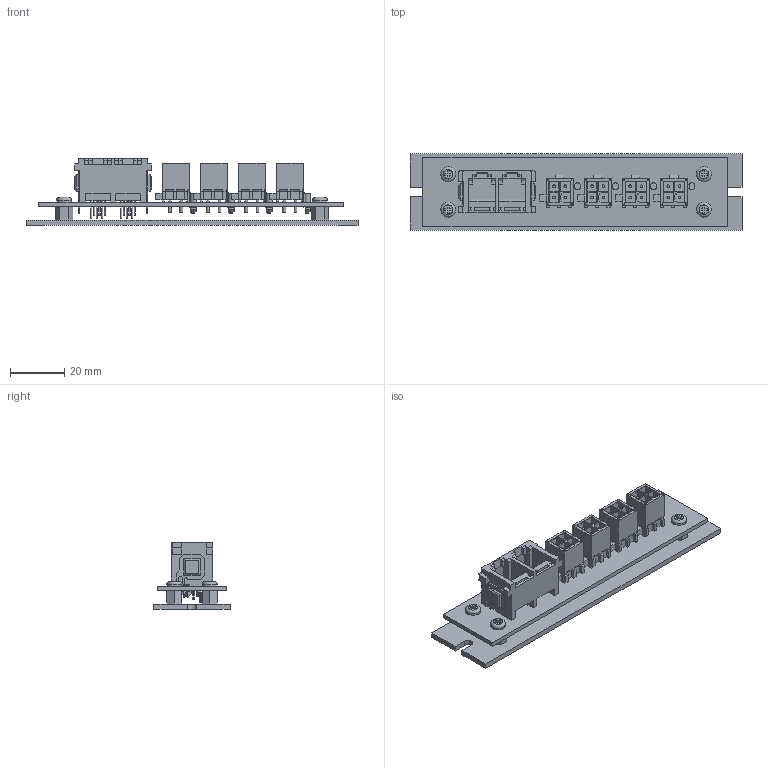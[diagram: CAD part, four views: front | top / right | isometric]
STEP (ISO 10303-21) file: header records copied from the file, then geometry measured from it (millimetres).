
FILE_DESCRIPTION(('FreeCAD Model'),'2;1');
FILE_NAME('Open CASCADE Shape Model','2023-07-31T15:27:42',('Author'),( ''),'Open CASCADE STEP processor 7.5','FreeCAD','Unknown');
FILE_SCHEMA(('AUTOMOTIVE_DESIGN { 1 0 10303 214 1 1 1 1 }'));
Length unit declared in the file: millimetre
Products named in the file (16): ADP_2_4; Body; Body001; Body002; Body003; Body004; Body005; C-1-770874-1; C-1-770874-002; C-1-770874-003; C-1-770874-004; TM2REA-1212簡略; Body006; Body007; Body008; Body009
Assembly tree (15 placements, depth 2):
  ADP_2_4
    Body
    Body001
    Body002
    Body003
    Body004
    Body005
    C-1-770874-1
    C-1-770874-002
    C-1-770874-003
    C-1-770874-004
    TM2REA-1212簡略
    Body006
    Body007
    Body008
    Body009
Bounding box: 122 x 28 x 24.6 mm (x, y, z)
Volume: 19180.5 mm3; surface area: 24208.2 mm2
Topology: 15 solids, 15 shells, 1369 faces, 3630 edges, 2376 vertices
Faces by surface type: plane 1105, cylinder 244, torus 12, cone 8
Full cylindrical faces by diameter (mm): 5.5 x4
Entity records: 97037 total; most frequent: CARTESIAN_POINT 23415, DIRECTION 13554, LINE 9786, VECTOR 9786, ORIENTED_EDGE 7260, PCURVE 7260, DEFINITIONAL_REPRESENTATION 7260, EDGE_CURVE 3630
